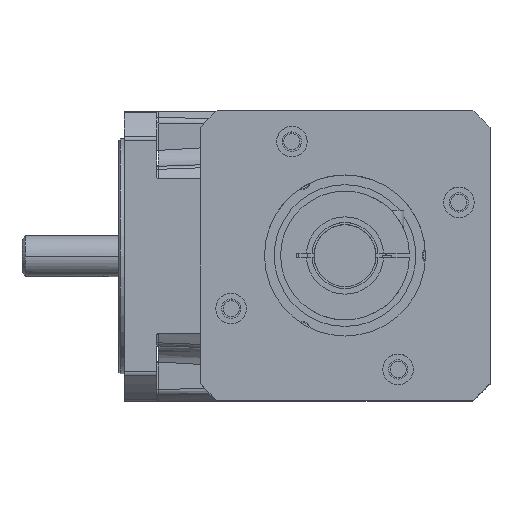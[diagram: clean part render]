
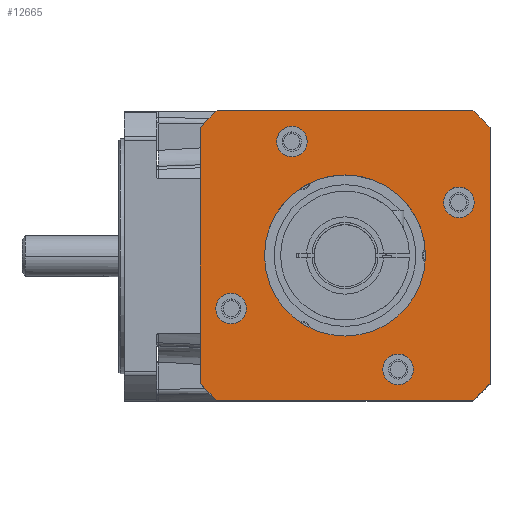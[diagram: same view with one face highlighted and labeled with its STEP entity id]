
A CAD part, top view. The second image highlights one B-rep face of the part: STEP entity #12665.
In plain terms, the highlighted planar face has unit normal (0, 0, 1).
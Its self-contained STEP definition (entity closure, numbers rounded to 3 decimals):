
#11937=CARTESIAN_POINT('',(0.,0.,197.));
#11938=DIRECTION('',(0.,0.,-1.));
#11939=DIRECTION('',(0.75,-0.661,0.));
#11940=AXIS2_PLACEMENT_3D('',#11937,#11938,#11939);
#11942=DIRECTION('',(-1.,0.,0.));
#11943=VECTOR('',#11942,79.373);
#11944=CARTESIAN_POINT('',(39.686,-45.,197.));
#11945=LINE('',#11944,#11943);
#11946=CARTESIAN_POINT('',(0.,0.,197.));
#11947=DIRECTION('',(0.,0.,-1.));
#11948=DIRECTION('',(-0.661,-0.75,0.));
#11949=AXIS2_PLACEMENT_3D('',#11946,#11947,#11948);
#11951=DIRECTION('',(0.,1.,0.));
#11952=VECTOR('',#11951,79.373);
#11953=CARTESIAN_POINT('',(-45.,-39.686,197.));
#11954=LINE('',#11953,#11952);
#11955=CARTESIAN_POINT('',(0.,0.,197.));
#11956=DIRECTION('',(0.,0.,-1.));
#11957=DIRECTION('',(-0.75,0.661,0.));
#11958=AXIS2_PLACEMENT_3D('',#11955,#11956,#11957);
#11960=DIRECTION('',(1.,0.,0.));
#11961=VECTOR('',#11960,79.373);
#11962=CARTESIAN_POINT('',(-39.686,45.,197.));
#11963=LINE('',#11962,#11961);
#11964=CARTESIAN_POINT('',(0.,0.,197.));
#11965=DIRECTION('',(0.,0.,-1.));
#11966=DIRECTION('',(0.661,0.75,0.));
#11967=AXIS2_PLACEMENT_3D('',#11964,#11965,#11966);
#11969=DIRECTION('',(0.,-1.,0.));
#11970=VECTOR('',#11969,79.373);
#11971=CARTESIAN_POINT('',(45.,39.686,197.));
#11972=LINE('',#11971,#11970);
#11973=CARTESIAN_POINT('',(0.,0.,197.));
#11974=DIRECTION('',(0.,0.,1.));
#11975=DIRECTION('',(1.,0.,0.));
#11976=AXIS2_PLACEMENT_3D('',#11973,#11974,#11975);
#11978=CARTESIAN_POINT('',(0.,0.,197.));
#11979=DIRECTION('',(0.,0.,1.));
#11980=DIRECTION('',(-1.,0.,0.));
#11981=AXIS2_PLACEMENT_3D('',#11978,#11979,#11980);
#11983=CARTESIAN_POINT('',(35.346,16.482,197.));
#11984=DIRECTION('',(0.,0.,-1.));
#11985=DIRECTION('',(-1.,0.,0.));
#11986=AXIS2_PLACEMENT_3D('',#11983,#11984,#11985);
#11988=CARTESIAN_POINT('',(35.346,16.482,197.));
#11989=DIRECTION('',(0.,0.,-1.));
#11990=DIRECTION('',(1.,0.,0.));
#11991=AXIS2_PLACEMENT_3D('',#11988,#11989,#11990);
#11993=CARTESIAN_POINT('',(-16.482,35.346,197.));
#11994=DIRECTION('',(0.,0.,-1.));
#11995=DIRECTION('',(-1.,0.,0.));
#11996=AXIS2_PLACEMENT_3D('',#11993,#11994,#11995);
#11998=CARTESIAN_POINT('',(-16.482,35.346,197.));
#11999=DIRECTION('',(0.,0.,-1.));
#12000=DIRECTION('',(1.,0.,0.));
#12001=AXIS2_PLACEMENT_3D('',#11998,#11999,#12000);
#12003=CARTESIAN_POINT('',(-35.346,-16.482,197.));
#12004=DIRECTION('',(0.,0.,-1.));
#12005=DIRECTION('',(-1.,0.,0.));
#12006=AXIS2_PLACEMENT_3D('',#12003,#12004,#12005);
#12008=CARTESIAN_POINT('',(-35.346,-16.482,197.));
#12009=DIRECTION('',(0.,0.,-1.));
#12010=DIRECTION('',(1.,0.,0.));
#12011=AXIS2_PLACEMENT_3D('',#12008,#12009,#12010);
#12013=CARTESIAN_POINT('',(16.482,-35.346,197.));
#12014=DIRECTION('',(0.,0.,-1.));
#12015=DIRECTION('',(1.,0.,0.));
#12016=AXIS2_PLACEMENT_3D('',#12013,#12014,#12015);
#12018=CARTESIAN_POINT('',(16.482,-35.346,197.));
#12019=DIRECTION('',(0.,0.,-1.));
#12020=DIRECTION('',(-1.,0.,0.));
#12021=AXIS2_PLACEMENT_3D('',#12018,#12019,#12020);
#12486=CARTESIAN_POINT('',(45.,-39.686,197.));
#12487=CARTESIAN_POINT('',(39.686,-45.,197.));
#12488=VERTEX_POINT('',#12486);
#12489=VERTEX_POINT('',#12487);
#12490=CARTESIAN_POINT('',(-39.686,-45.,197.));
#12491=CARTESIAN_POINT('',(-45.,-39.686,197.));
#12492=VERTEX_POINT('',#12490);
#12493=VERTEX_POINT('',#12491);
#12494=CARTESIAN_POINT('',(-45.,39.686,197.));
#12495=CARTESIAN_POINT('',(-39.686,45.,197.));
#12496=VERTEX_POINT('',#12494);
#12497=VERTEX_POINT('',#12495);
#12498=CARTESIAN_POINT('',(39.686,45.,197.));
#12499=CARTESIAN_POINT('',(45.,39.686,197.));
#12500=VERTEX_POINT('',#12498);
#12501=VERTEX_POINT('',#12499);
#12518=CARTESIAN_POINT('',(25.,0.,197.));
#12519=CARTESIAN_POINT('',(-25.,0.,197.));
#12520=VERTEX_POINT('',#12518);
#12521=VERTEX_POINT('',#12519);
#12542=CARTESIAN_POINT('',(30.596,16.482,197.));
#12543=CARTESIAN_POINT('',(40.096,16.482,197.));
#12544=VERTEX_POINT('',#12542);
#12545=VERTEX_POINT('',#12543);
#12558=CARTESIAN_POINT('',(-21.232,35.346,197.));
#12559=VERTEX_POINT('',#12558);
#12560=CARTESIAN_POINT('',(-11.732,35.346,197.));
#12561=VERTEX_POINT('',#12560);
#12570=CARTESIAN_POINT('',(-40.096,-16.482,197.));
#12571=VERTEX_POINT('',#12570);
#12572=CARTESIAN_POINT('',(-30.596,-16.482,197.));
#12573=VERTEX_POINT('',#12572);
#12582=CARTESIAN_POINT('',(11.732,-35.346,197.));
#12583=VERTEX_POINT('',#12582);
#12584=CARTESIAN_POINT('',(21.232,-35.346,197.));
#12585=VERTEX_POINT('',#12584);
#12612=CARTESIAN_POINT('',(0.,0.,197.));
#12613=DIRECTION('',(0.,0.,-1.));
#12614=DIRECTION('',(-1.,0.,0.));
#12615=AXIS2_PLACEMENT_3D('',#12612,#12613,#12614);
#12616=PLANE('',#12615);
#12618=ORIENTED_EDGE('',*,*,#12617,.T.);
#12620=ORIENTED_EDGE('',*,*,#12619,.T.);
#12622=ORIENTED_EDGE('',*,*,#12621,.T.);
#12624=ORIENTED_EDGE('',*,*,#12623,.T.);
#12626=ORIENTED_EDGE('',*,*,#12625,.T.);
#12628=ORIENTED_EDGE('',*,*,#12627,.T.);
#12630=ORIENTED_EDGE('',*,*,#12629,.T.);
#12632=ORIENTED_EDGE('',*,*,#12631,.T.);
#12633=EDGE_LOOP('',(#12618,#12620,#12622,#12624,#12626,#12628,#12630,#12632));
#12634=FACE_OUTER_BOUND('',#12633,.F.);
#12636=ORIENTED_EDGE('',*,*,#12635,.T.);
#12638=ORIENTED_EDGE('',*,*,#12637,.T.);
#12639=EDGE_LOOP('',(#12636,#12638));
#12640=FACE_BOUND('',#12639,.F.);
#12642=ORIENTED_EDGE('',*,*,#12641,.F.);
#12644=ORIENTED_EDGE('',*,*,#12643,.F.);
#12645=EDGE_LOOP('',(#12642,#12644));
#12646=FACE_BOUND('',#12645,.F.);
#12648=ORIENTED_EDGE('',*,*,#12647,.F.);
#12650=ORIENTED_EDGE('',*,*,#12649,.F.);
#12651=EDGE_LOOP('',(#12648,#12650));
#12652=FACE_BOUND('',#12651,.F.);
#12654=ORIENTED_EDGE('',*,*,#12653,.F.);
#12656=ORIENTED_EDGE('',*,*,#12655,.F.);
#12657=EDGE_LOOP('',(#12654,#12656));
#12658=FACE_BOUND('',#12657,.F.);
#12660=ORIENTED_EDGE('',*,*,#12659,.F.);
#12662=ORIENTED_EDGE('',*,*,#12661,.F.);
#12663=EDGE_LOOP('',(#12660,#12662));
#12664=FACE_BOUND('',#12663,.F.);
#12665=ADVANCED_FACE('',(#12634,#12640,#12646,#12652,#12658,#12664),#12616,.F.);
#11941=CIRCLE('',#11940,60.);
#11950=CIRCLE('',#11949,60.);
#11959=CIRCLE('',#11958,60.);
#11968=CIRCLE('',#11967,60.);
#11977=CIRCLE('',#11976,25.);
#11982=CIRCLE('',#11981,25.);
#11987=CIRCLE('',#11986,4.75);
#11992=CIRCLE('',#11991,4.75);
#11997=CIRCLE('',#11996,4.75);
#12002=CIRCLE('',#12001,4.75);
#12007=CIRCLE('',#12006,4.75);
#12012=CIRCLE('',#12011,4.75);
#12017=CIRCLE('',#12016,4.75);
#12022=CIRCLE('',#12021,4.75);
#12617=EDGE_CURVE('',#12488,#12489,#11941,.T.);
#12619=EDGE_CURVE('',#12489,#12492,#11945,.T.);
#12621=EDGE_CURVE('',#12492,#12493,#11950,.T.);
#12623=EDGE_CURVE('',#12493,#12496,#11954,.T.);
#12625=EDGE_CURVE('',#12496,#12497,#11959,.T.);
#12627=EDGE_CURVE('',#12497,#12500,#11963,.T.);
#12629=EDGE_CURVE('',#12500,#12501,#11968,.T.);
#12631=EDGE_CURVE('',#12501,#12488,#11972,.T.);
#12635=EDGE_CURVE('',#12520,#12521,#11977,.T.);
#12637=EDGE_CURVE('',#12521,#12520,#11982,.T.);
#12641=EDGE_CURVE('',#12544,#12545,#11987,.T.);
#12643=EDGE_CURVE('',#12545,#12544,#11992,.T.);
#12647=EDGE_CURVE('',#12559,#12561,#11997,.T.);
#12649=EDGE_CURVE('',#12561,#12559,#12002,.T.);
#12653=EDGE_CURVE('',#12571,#12573,#12007,.T.);
#12655=EDGE_CURVE('',#12573,#12571,#12012,.T.);
#12659=EDGE_CURVE('',#12585,#12583,#12017,.T.);
#12661=EDGE_CURVE('',#12583,#12585,#12022,.T.);
